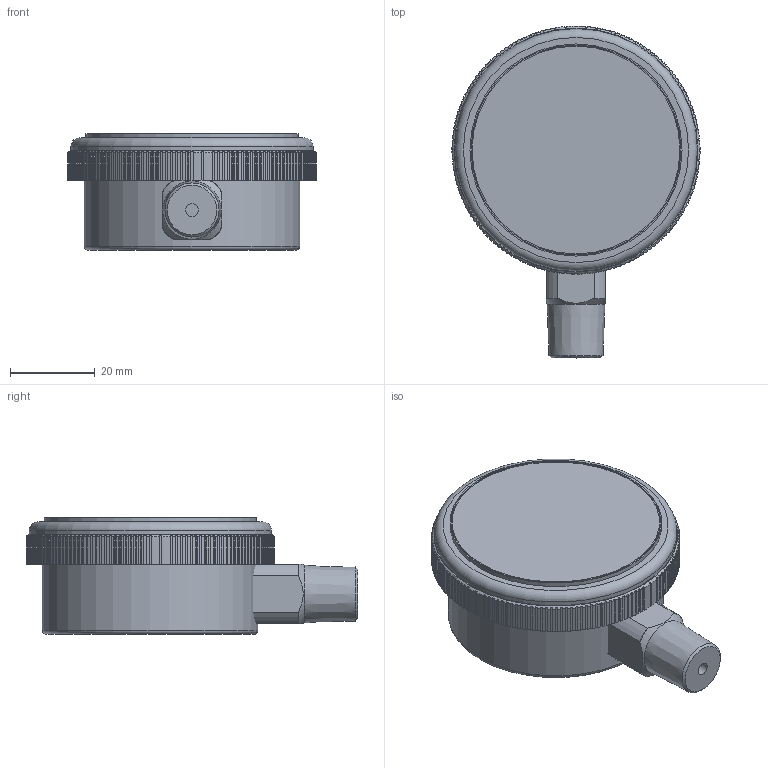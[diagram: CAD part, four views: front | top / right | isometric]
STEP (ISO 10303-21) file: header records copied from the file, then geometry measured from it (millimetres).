
FILE_DESCRIPTION(/* description */ ('STEP AP203'),/* implementation_level */ '2;1');
FILE_NAME(/* name */ 'P800_50PI_LOW MOUNT_NPT(M).stp',/* time_stamp */ '2025-03-26T19:50:38+09:00',/* author */ ('wise-209'),/* organization */ (''),/* preprocessor_version */ 'ST-DEVELOPER v19.2',/* originating_system */ 'Autodesk Inventor 2024',/* authorisation */ '');
FILE_SCHEMA (('AUTOMOTIVE_DESIGN { 1 0 10303 214 3 1 1 }'));
Length unit declared in the file: millimetre
Products named in the file (3): P820_50A_SM; P830_50mm_F Type_14in NPT_SHANK; P810_CASE,COVER,SHANK_ VCR
Assembly tree (2 placements, depth 2):
  P820_50A_SM
    P830_50mm_F Type_14in NPT_SHANK
    P810_CASE,COVER,SHANK_ VCR
Bounding box: 58.5 x 78.25 x 27.5 mm (x, y, z)
Volume: 60181.6 mm3; surface area: 18177.7 mm2
Topology: 2 solids, 3 shells, 616 faces, 1809 edges, 1205 vertices
Faces by surface type: plane 452, cylinder 154, cone 7, torus 3
Full cylindrical faces by diameter (mm): 3 x1, 48.998 x1, 50 x1, 50.8 x1, 55.5 x1, 57.1 x1
Entity records: 23127 total; most frequent: CARTESIAN_POINT 6166, ORIENTED_EDGE 3618, DIRECTION 3521, EDGE_CURVE 1809, LINE 1329, VECTOR 1329, VERTEX_POINT 1205, AXIS2_PLACEMENT_3D 1096
